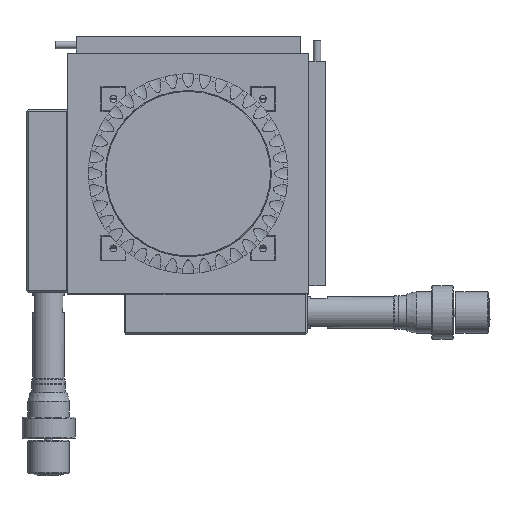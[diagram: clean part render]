
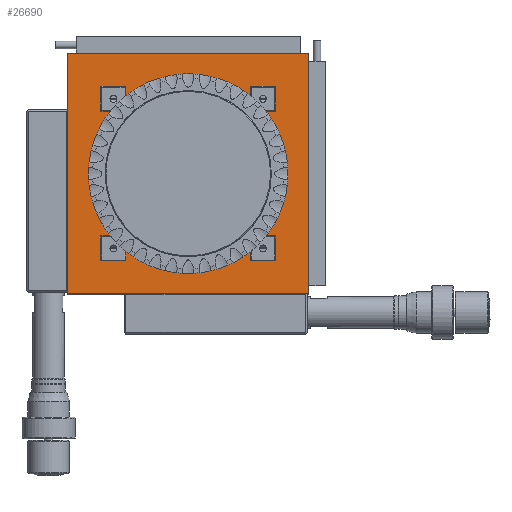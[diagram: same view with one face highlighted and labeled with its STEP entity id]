
A CAD part, top view. The second image highlights one B-rep face of the part: STEP entity #26690.
In plain terms, the highlighted planar face has unit normal (0, 0, 1).
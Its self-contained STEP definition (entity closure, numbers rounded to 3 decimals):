
#1191=FACE_BOUND('',#5495,.T.);
#1192=FACE_BOUND('',#5496,.T.);
#1193=FACE_BOUND('',#5497,.T.);
#1194=FACE_BOUND('',#5498,.T.);
#1195=FACE_BOUND('',#5499,.T.);
#2473=CIRCLE('',#29521,50.5);
#3855=FACE_OUTER_BOUND('',#5494,.T.);
#5494=EDGE_LOOP('',(#22416,#22417,#22418,#22419));
#5495=EDGE_LOOP('',(#22420,#22421,#22422,#22423));
#5496=EDGE_LOOP('',(#22424,#22425,#22426,#22427));
#5497=EDGE_LOOP('',(#22428,#22429,#22430,#22431));
#5498=EDGE_LOOP('',(#22432,#22433,#22434,#22435));
#5499=EDGE_LOOP('',(#22436));
#7450=LINE('',#44318,#9436);
#7454=LINE('',#44325,#9440);
#7457=LINE('',#44331,#9443);
#7459=LINE('',#44334,#9445);
#7462=LINE('',#44343,#9448);
#7466=LINE('',#44350,#9452);
#7469=LINE('',#44356,#9455);
#7471=LINE('',#44359,#9457);
#7474=LINE('',#44368,#9460);
#7478=LINE('',#44375,#9464);
#7481=LINE('',#44381,#9467);
#7483=LINE('',#44384,#9469);
#7486=LINE('',#44393,#9472);
#7490=LINE('',#44400,#9476);
#7493=LINE('',#44406,#9479);
#7495=LINE('',#44409,#9481);
#7524=LINE('',#44522,#9510);
#7559=LINE('',#44593,#9545);
#7561=LINE('',#44596,#9547);
#7562=LINE('',#44597,#9548);
#9436=VECTOR('',#36478,10.);
#9440=VECTOR('',#36484,10.);
#9443=VECTOR('',#36489,10.);
#9445=VECTOR('',#36493,10.);
#9448=VECTOR('',#36500,10.);
#9452=VECTOR('',#36506,10.);
#9455=VECTOR('',#36511,10.);
#9457=VECTOR('',#36515,10.);
#9460=VECTOR('',#36522,10.);
#9464=VECTOR('',#36528,10.);
#9467=VECTOR('',#36533,10.);
#9469=VECTOR('',#36537,10.);
#9472=VECTOR('',#36544,10.);
#9476=VECTOR('',#36550,10.);
#9479=VECTOR('',#36555,10.);
#9481=VECTOR('',#36559,10.);
#9510=VECTOR('',#36680,10.);
#9545=VECTOR('',#36739,10.);
#9547=VECTOR('',#36743,10.);
#9548=VECTOR('',#36744,10.);
#11857=VERTEX_POINT('',#44315);
#11858=VERTEX_POINT('',#44317);
#11860=VERTEX_POINT('',#44323);
#11862=VERTEX_POINT('',#44329);
#11865=VERTEX_POINT('',#44340);
#11866=VERTEX_POINT('',#44342);
#11868=VERTEX_POINT('',#44348);
#11870=VERTEX_POINT('',#44354);
#11873=VERTEX_POINT('',#44365);
#11874=VERTEX_POINT('',#44367);
#11876=VERTEX_POINT('',#44373);
#11878=VERTEX_POINT('',#44379);
#11881=VERTEX_POINT('',#44390);
#11882=VERTEX_POINT('',#44392);
#11884=VERTEX_POINT('',#44398);
#11886=VERTEX_POINT('',#44404);
#11919=VERTEX_POINT('',#44508);
#11921=VERTEX_POINT('',#44515);
#11924=VERTEX_POINT('',#44520);
#11947=VERTEX_POINT('',#44590);
#11948=VERTEX_POINT('',#44592);
#15366=EDGE_CURVE('',#11858,#11857,#7450,.T.);
#15370=EDGE_CURVE('',#11857,#11860,#7454,.T.);
#15373=EDGE_CURVE('',#11860,#11862,#7457,.T.);
#15375=EDGE_CURVE('',#11862,#11858,#7459,.T.);
#15378=EDGE_CURVE('',#11866,#11865,#7462,.T.);
#15382=EDGE_CURVE('',#11865,#11868,#7466,.T.);
#15385=EDGE_CURVE('',#11868,#11870,#7469,.T.);
#15387=EDGE_CURVE('',#11870,#11866,#7471,.T.);
#15390=EDGE_CURVE('',#11874,#11873,#7474,.T.);
#15394=EDGE_CURVE('',#11873,#11876,#7478,.T.);
#15397=EDGE_CURVE('',#11876,#11878,#7481,.T.);
#15399=EDGE_CURVE('',#11878,#11874,#7483,.T.);
#15402=EDGE_CURVE('',#11882,#11881,#7486,.T.);
#15406=EDGE_CURVE('',#11881,#11884,#7490,.T.);
#15409=EDGE_CURVE('',#11884,#11886,#7493,.T.);
#15411=EDGE_CURVE('',#11886,#11882,#7495,.T.);
#15460=EDGE_CURVE('',#11919,#11919,#2473,.T.);
#15466=EDGE_CURVE('',#11924,#11921,#7524,.T.);
#15501=EDGE_CURVE('',#11948,#11947,#7559,.T.);
#15503=EDGE_CURVE('',#11947,#11921,#7561,.T.);
#15504=EDGE_CURVE('',#11948,#11924,#7562,.T.);
#22416=ORIENTED_EDGE('',*,*,#15503,.T.);
#22417=ORIENTED_EDGE('',*,*,#15466,.F.);
#22418=ORIENTED_EDGE('',*,*,#15504,.F.);
#22419=ORIENTED_EDGE('',*,*,#15501,.T.);
#22420=ORIENTED_EDGE('',*,*,#15370,.T.);
#22421=ORIENTED_EDGE('',*,*,#15373,.T.);
#22422=ORIENTED_EDGE('',*,*,#15375,.T.);
#22423=ORIENTED_EDGE('',*,*,#15366,.T.);
#22424=ORIENTED_EDGE('',*,*,#15382,.T.);
#22425=ORIENTED_EDGE('',*,*,#15385,.T.);
#22426=ORIENTED_EDGE('',*,*,#15387,.T.);
#22427=ORIENTED_EDGE('',*,*,#15378,.T.);
#22428=ORIENTED_EDGE('',*,*,#15394,.T.);
#22429=ORIENTED_EDGE('',*,*,#15397,.T.);
#22430=ORIENTED_EDGE('',*,*,#15399,.T.);
#22431=ORIENTED_EDGE('',*,*,#15390,.T.);
#22432=ORIENTED_EDGE('',*,*,#15406,.T.);
#22433=ORIENTED_EDGE('',*,*,#15409,.T.);
#22434=ORIENTED_EDGE('',*,*,#15411,.T.);
#22435=ORIENTED_EDGE('',*,*,#15402,.T.);
#22436=ORIENTED_EDGE('',*,*,#15460,.T.);
#24029=PLANE('',#29537);
#26690=ADVANCED_FACE('',(#3855,#1191,#1192,#1193,#1194,#1195),#24029,.T.);
#29521=AXIS2_PLACEMENT_3D('',#44509,#36668,#36669);
#29537=AXIS2_PLACEMENT_3D('',#44595,#36741,#36742);
#36478=DIRECTION('',(0.,-1.,0.));
#36484=DIRECTION('',(-1.,0.,0.));
#36489=DIRECTION('',(0.,1.,0.));
#36493=DIRECTION('',(1.,0.,0.));
#36500=DIRECTION('',(0.,-1.,0.));
#36506=DIRECTION('',(-1.,0.,0.));
#36511=DIRECTION('',(0.,1.,0.));
#36515=DIRECTION('',(1.,0.,0.));
#36522=DIRECTION('',(0.,-1.,0.));
#36528=DIRECTION('',(-1.,0.,0.));
#36533=DIRECTION('',(0.,1.,0.));
#36537=DIRECTION('',(1.,0.,0.));
#36544=DIRECTION('',(0.,-1.,0.));
#36550=DIRECTION('',(-1.,0.,0.));
#36555=DIRECTION('',(0.,1.,0.));
#36559=DIRECTION('',(1.,0.,0.));
#36668=DIRECTION('center_axis',(0.,0.,
-1.));
#36669=DIRECTION('ref_axis',(0.,-1.,0.));
#36680=DIRECTION('',(1.,0.,0.));
#36739=DIRECTION('',(1.,0.,0.));
#36741=DIRECTION('center_axis',(0.,0.,
1.));
#36742=DIRECTION('ref_axis',(1.,0.,0.));
#36743=DIRECTION('',(0.,1.,0.));
#36744=DIRECTION('',(0.,1.,0.));
#44315=CARTESIAN_POINT('',(-37.5,37.5,51.));
#44317=CARTESIAN_POINT('',(-37.5,52.5,51.));
#44318=CARTESIAN_POINT('',(-37.5,-9.75,51.));
#44323=CARTESIAN_POINT('',(-52.5,37.5,51.));
#44325=CARTESIAN_POINT('',(-55.,37.5,51.));
#44329=CARTESIAN_POINT('',(-52.5,52.5,51.));
#44331=CARTESIAN_POINT('',(-52.5,-17.25,51.));
#44334=CARTESIAN_POINT('',(-62.5,52.5,51.));
#44340=CARTESIAN_POINT('',(-37.5,-52.5,51.));
#44342=CARTESIAN_POINT('',(-37.5,-37.5,51.));
#44343=CARTESIAN_POINT('',(-37.5,-54.75,51.));
#44348=CARTESIAN_POINT('',(-52.5,-52.5,51.));
#44350=CARTESIAN_POINT('',(-55.,-52.5,51.));
#44354=CARTESIAN_POINT('',(-52.5,-37.5,51.));
#44356=CARTESIAN_POINT('',(-52.5,-62.25,51.));
#44359=CARTESIAN_POINT('',(-62.5,-37.5,51.));
#44365=CARTESIAN_POINT('',(52.5,37.5,51.));
#44367=CARTESIAN_POINT('',(52.5,52.5,51.));
#44368=CARTESIAN_POINT('',(52.5,-9.75,51.));
#44373=CARTESIAN_POINT('',(37.5,37.5,51.));
#44375=CARTESIAN_POINT('',(-10.,37.5,51.));
#44379=CARTESIAN_POINT('',(37.5,52.5,51.));
#44381=CARTESIAN_POINT('',(37.5,-17.25,51.));
#44384=CARTESIAN_POINT('',(-17.5,52.5,51.));
#44390=CARTESIAN_POINT('',(52.5,-52.5,51.));
#44392=CARTESIAN_POINT('',(52.5,-37.5,51.));
#44393=CARTESIAN_POINT('',(52.5,-54.75,51.));
#44398=CARTESIAN_POINT('',(37.5,-52.5,51.));
#44400=CARTESIAN_POINT('',(-10.,-52.5,51.));
#44404=CARTESIAN_POINT('',(37.5,-37.5,51.));
#44406=CARTESIAN_POINT('',(37.5,-62.25,51.));
#44409=CARTESIAN_POINT('',(-17.5,-37.5,51.));
#44508=CARTESIAN_POINT('',(0.,50.5,51.));
#44509=CARTESIAN_POINT('Origin',(0.,0.,
51.));
#44515=CARTESIAN_POINT('',(72.5,72.5,51.));
#44520=CARTESIAN_POINT('',(-72.5,72.5,51.));
#44522=CARTESIAN_POINT('',(-72.5,72.5,51.));
#44590=CARTESIAN_POINT('',(72.5,-72.,51.));
#44592=CARTESIAN_POINT('',(-72.5,-72.,51.));
#44593=CARTESIAN_POINT('',(-72.5,-72.,51.));
#44595=CARTESIAN_POINT('Origin',(-72.5,-72.,51.));
#44596=CARTESIAN_POINT('',(72.5,-72.,51.));
#44597=CARTESIAN_POINT('',(-72.5,-72.,51.));
